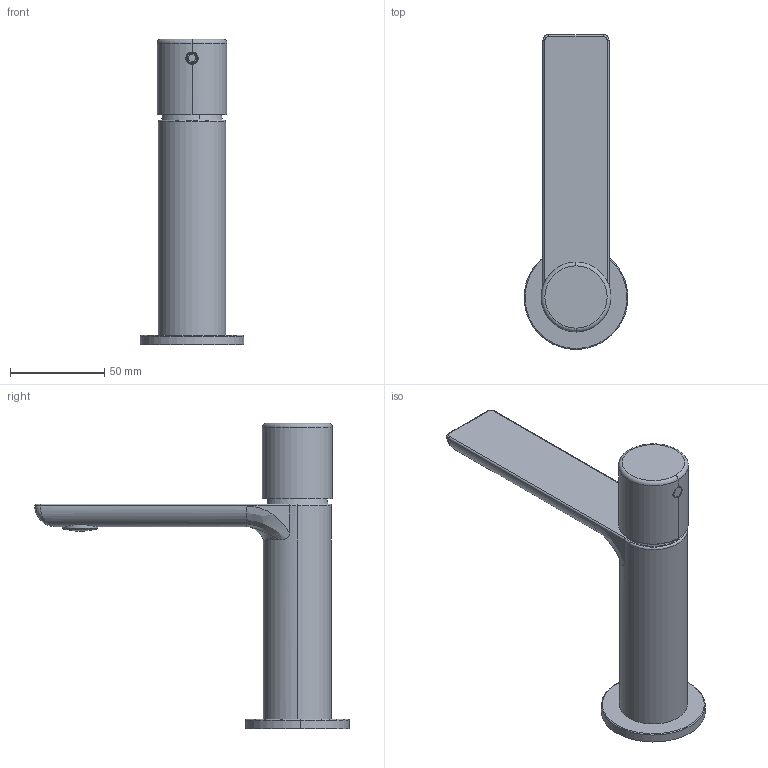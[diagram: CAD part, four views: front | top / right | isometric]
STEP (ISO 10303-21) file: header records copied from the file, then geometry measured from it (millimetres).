
FILE_DESCRIPTION (( 'STEP AP203' ), '1' );
FILE_NAME ('ZOE1.STEP', '2022-11-22T09:50:29', ( '' ), ( '' ), 'SwSTEP 2.0', 'SolidWorks 2021', '' );
FILE_SCHEMA (( 'CONFIG_CONTROL_DESIGN' ));
Length unit declared in the file: millimetre
Products named in the file (12): C13.00.0013; AS1035_00; C24.2582.00.0; C11.14.0009; C23.2581.00.0; C47.00.0023.01; CAPPUCCIO JAGO; ZOE1; C10.00.0030; GHIERA JAGO; CORPO ZANE''; BASETTA JAGO''
Assembly tree (11 placements, depth 3):
  ZOE1
    CORPO ZANE''
    C10.00.0030
    CAPPUCCIO JAGO
    GHIERA JAGO
    AS1035_00
      C23.2581.00.0
      C24.2582.00.0
      C11.14.0009
    C47.00.0023.01
    BASETTA JAGO''
    C13.00.0013
Bounding box: 54.89 x 166.44 x 161.8 mm (x, y, z)
Volume: 154110.3 mm3; surface area: 64684 mm2
Topology: 10 solids, 12 shells, 327 faces, 752 edges, 471 vertices
Faces by surface type: cylinder 130, plane 126, cone 37, torus 18, bspline 16
Entity records: 11756 total; most frequent: CARTESIAN_POINT 2961, DIRECTION 1682, ORIENTED_EDGE 1488, EDGE_CURVE 746, AXIS2_PLACEMENT_3D 675, VERTEX_POINT 471, EDGE_LOOP 375, CIRCLE 348
